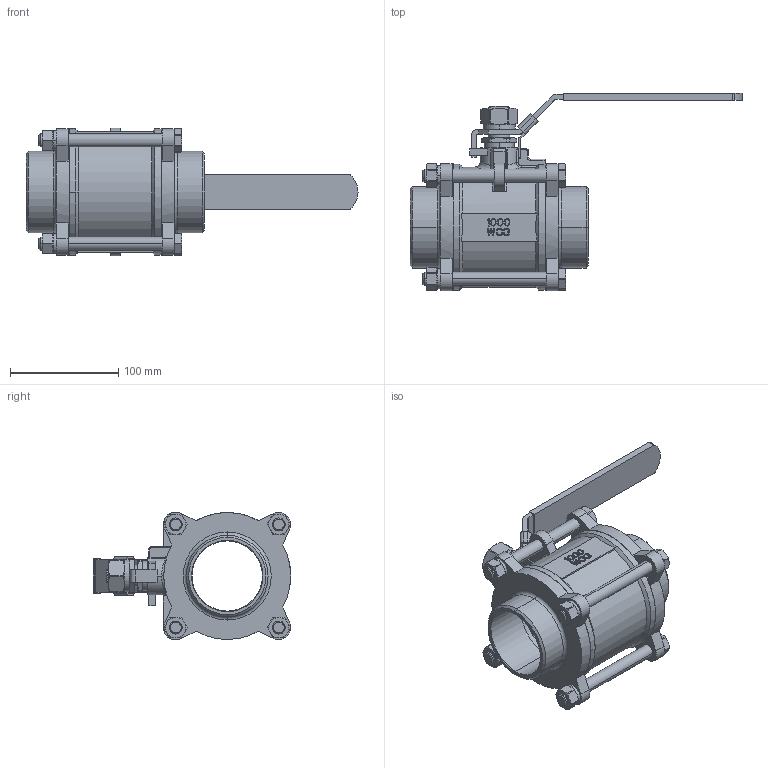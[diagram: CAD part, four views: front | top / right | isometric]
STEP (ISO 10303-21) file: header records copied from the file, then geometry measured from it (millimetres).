
FILE_DESCRIPTION((''),'2;1');
FILE_NAME('65C310_ASM','2020-08-22T',('Administrator'),(''),'CREO PARAMETRIC BY PTC INC, 2016260','CREO PARAMETRIC BY PTC INC, 2016260','');
FILE_SCHEMA(('CONFIG_CONTROL_DESIGN'));
Length unit declared in the file: millimetre
Products named in the file (16): 65T; 20X24X2ZHITUIDIANPIAN; 65FAGAN; 65QIU; 65FAZUO; 65G; 20X10TIANLIAO; M28X20YATAO; 65SHOUBING; 65SUOKOU; M20TANDIAN; M20LUOMU; M12X125LUOGAN; M12TANDIAN; M12LUOMU; 65C310_ASM
Assembly tree (26 placements, depth 2):
  65C310_ASM
    65T
    20X24X2ZHITUIDIANPIAN
    65FAGAN
    65QIU
    65FAZUO  x2
    65G  x2
    20X10TIANLIAO
    M28X20YATAO
    65SHOUBING
    65SUOKOU
    M20TANDIAN
    M20LUOMU
    M12X125LUOGAN  x4
    M12TANDIAN  x4
    M12LUOMU  x4
Bounding box: 307.27 x 182.75 x 118.46 mm (x, y, z)
Volume: 898379.5 mm3; surface area: 291666.1 mm2
Topology: 26 solids, 26 shells, 1075 faces, 2810 edges, 1821 vertices
Faces by surface type: plane 652, cylinder 244, cone 103, extrusion 30, torus 26, bspline 14, sphere 6
Entity records: 28096 total; most frequent: CARTESIAN_POINT 6518, ORIENTED_EDGE 4552, DIRECTION 4165, EDGE_CURVE 2276, VECTOR 1687, LINE 1657, VERTEX_POINT 1491, AXIS2_PLACEMENT_3D 1239
